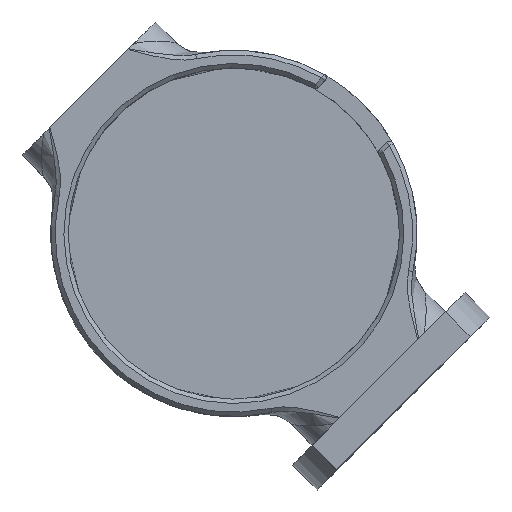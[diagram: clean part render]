
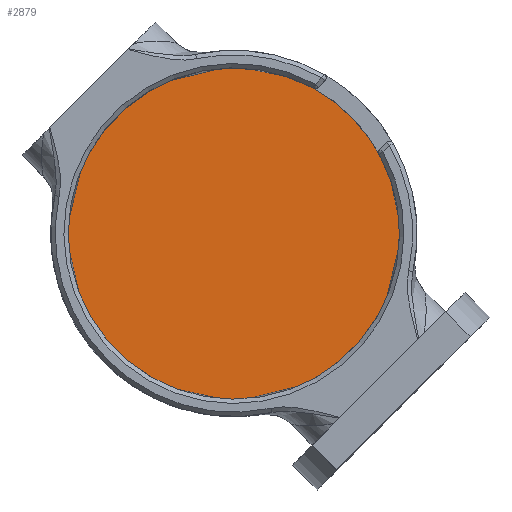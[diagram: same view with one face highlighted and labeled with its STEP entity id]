
A CAD part, top view. The second image highlights one B-rep face of the part: STEP entity #2879.
In plain terms, the highlighted planar face has unit normal (0, 0, 1).
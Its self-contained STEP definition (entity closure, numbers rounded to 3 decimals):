
#61 = FACE_OUTER_BOUND ( 'NONE', #1101, .T. ) ;
#363 = DIRECTION ( 'NONE',  ( 0., 0., -1. ) ) ;
#509 = CIRCLE ( 'NONE', #912, 19. ) ;
#847 = CARTESIAN_POINT ( 'NONE',  ( 19., 0., 0. ) ) ;
#912 = AXIS2_PLACEMENT_3D ( 'NONE', #2772, #2146, #3741 ) ;
#1101 = EDGE_LOOP ( 'NONE', ( #3542 ) ) ;
#1120 = AXIS2_PLACEMENT_3D ( 'NONE', #1347, #363, #3943 ) ;
#1347 = CARTESIAN_POINT ( 'NONE',  ( 0., 0., 0. ) ) ;
#2146 = DIRECTION ( 'NONE',  ( 0., 0., 1. ) ) ;
#2312 = EDGE_CURVE ( 'NONE', #2415, #2415, #509, .T. ) ;
#2415 = VERTEX_POINT ( 'NONE', #847 ) ;
#2772 = CARTESIAN_POINT ( 'NONE',  ( 0., 0., 0. ) ) ;
#2879 = ADVANCED_FACE ( 'NONE', ( #61 ), #3562, .F. ) ;
#3542 = ORIENTED_EDGE ( 'NONE', *, *, #2312, .T. ) ;
#3562 = PLANE ( 'NONE',  #1120 ) ;
#3741 = DIRECTION ( 'NONE',  ( 1., 0., 0. ) ) ;
#3943 = DIRECTION ( 'NONE',  ( -1., 0., 0. ) ) ;
